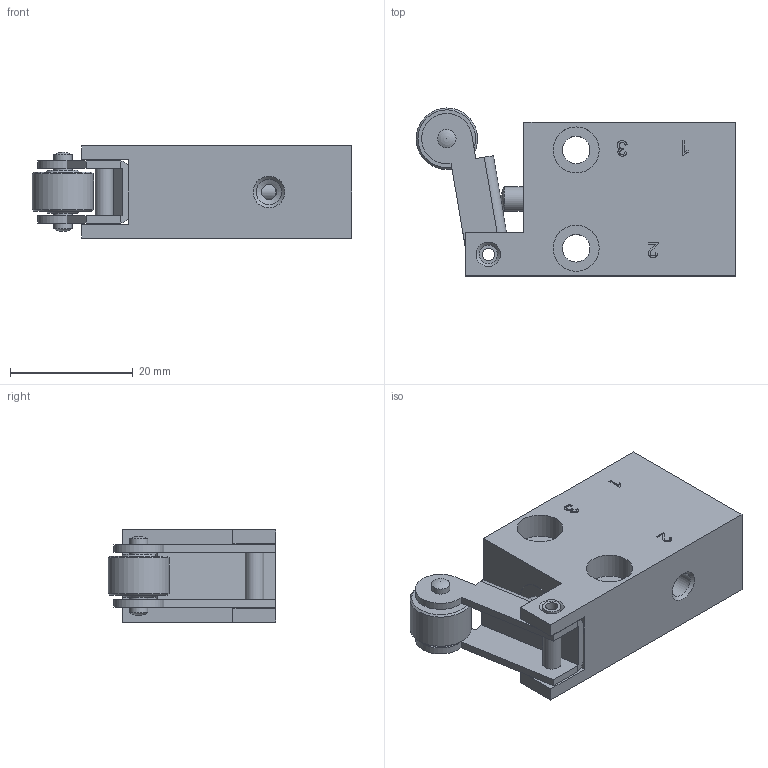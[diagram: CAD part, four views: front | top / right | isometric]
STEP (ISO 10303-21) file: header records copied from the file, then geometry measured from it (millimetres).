
FILE_DESCRIPTION(/* description */ ('Unknown'),/* implementation_level */ '2;1');
FILE_NAME(/* name */ 'BR 311 201',/* time_stamp */ '2018-07-24T12:59:39+02:00',/* author */ ('Unknown'),/* organization */ ('Unknown'),/* preprocessor_version */ 'ST-DEVELOPER v16.7',/* originating_system */ 'DEX',/* authorisation */ $);
FILE_SCHEMA (('AUTOMOTIVE_DESIGN {1 0 10303 214 3 1 1}'));
Length unit declared in the file: millimetre
Products named in the file (2): BR 311 201
Assembly tree (1 placements, depth 2):
  BR 311 201
    BR 311 201
Bounding box: 52.06 x 27.33 x 15.2 mm (x, y, z)
Volume: 12183.8 mm3; surface area: 8354.7 mm2
Topology: 8 solids, 8 shells, 189 faces, 477 edges, 316 vertices
Faces by surface type: plane 74, cylinder 48, bspline 39, cone 24, sphere 3, torus 1
Full cylindrical faces by diameter (mm): 1 x1, 2 x1, 2.5 x3, 2.8 x1, 2.9 x1, 3 x8, 4 x2, 4.05 x1, 4.134 x6, 4.5 x2, 5 x1, 6 x1, 7 x1, 7.5 x4, 8 x1, 8.06 x1, 8.08 x1, 10 x1
Entity records: 6579 total; most frequent: CARTESIAN_POINT 1687, ORIENTED_EDGE 762, DIRECTION 713, EDGE_CURVE 381, EDGE_LOOP 298, FACE_BOUND 298, VERTEX_POINT 285, AXIS2_PLACEMENT_3D 264
